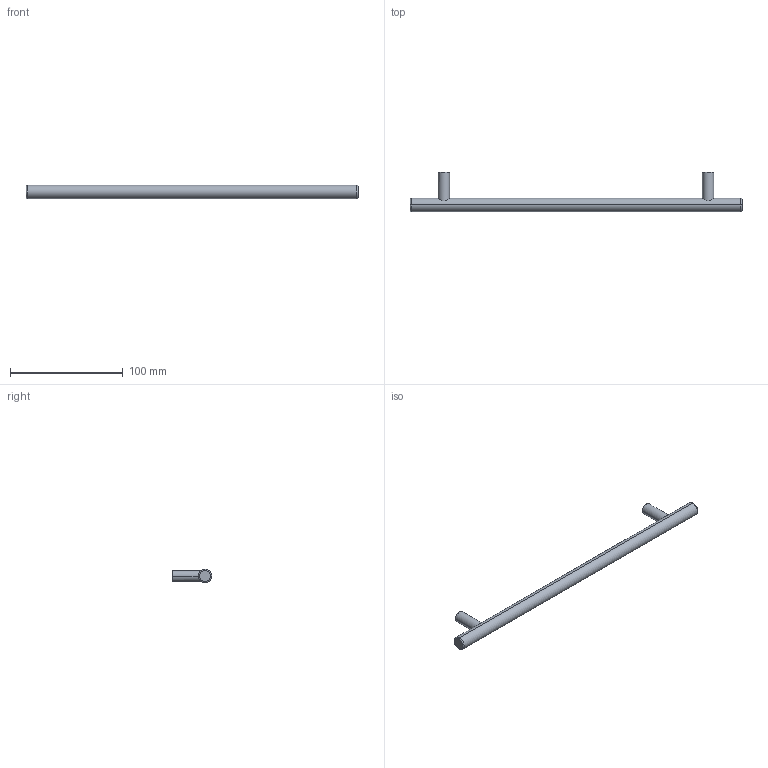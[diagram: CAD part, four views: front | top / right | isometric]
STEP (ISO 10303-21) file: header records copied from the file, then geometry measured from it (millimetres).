
FILE_DESCRIPTION( ( '' ), '1' );
FILE_NAME( 'C:/Documents and Settings/Sachin/Desktop/Sheet 10_1/stp/9070742.stp', '2013-10-22T12:33:16', ( '' ), ( '' ), ' ', ' ', ' ' );
FILE_SCHEMA( ( 'CONFIG_CONTROL_DESIGN' ) );
Length unit declared in the file: millimetre
Products named in the file (1): 1
Bounding box: 294 x 35 x 12 mm (x, y, z)
Volume: 36738 mm3; surface area: 12981.3 mm2
Topology: 1 solids, 1 shells, 20 faces, 44 edges, 30 vertices
Faces by surface type: cylinder 10, plane 6, torus 4
Entity records: 738 total; most frequent: CARTESIAN_POINT 229, DIRECTION 108, ORIENTED_EDGE 88, AXIS2_PLACEMENT_3D 49, EDGE_CURVE 44, VERTEX_POINT 30, CIRCLE 28, EDGE_LOOP 24
